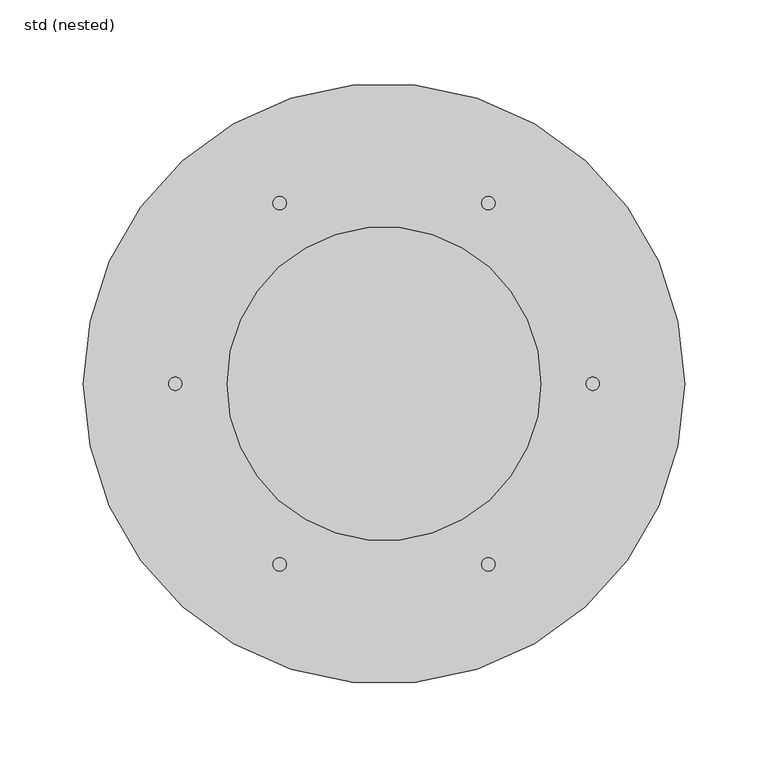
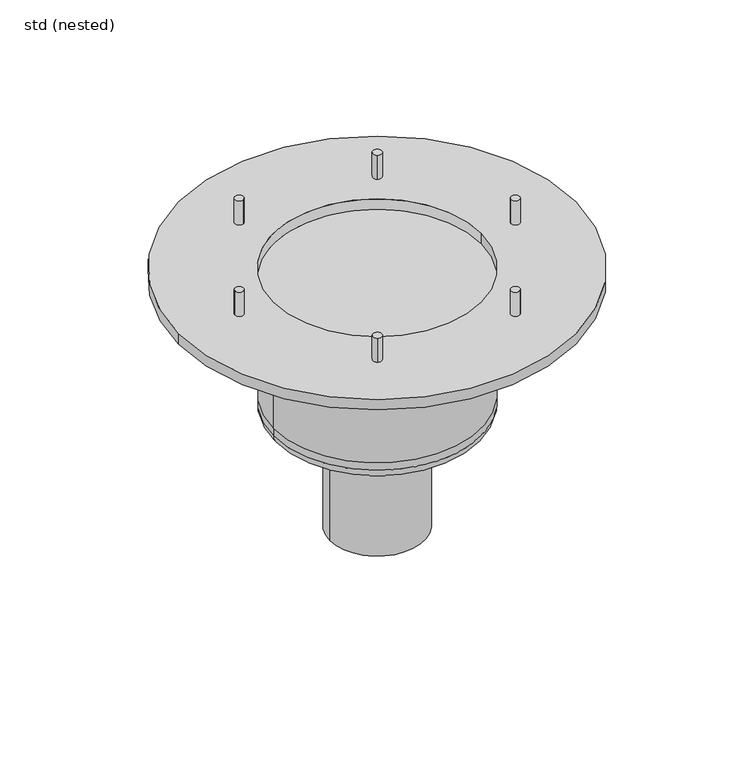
"""IFC4 building model written with IfcOpenShell, lengths in millimetres: sanitary terminal geometry, ZZZ_do not use_PF_CI_WPB_lower section for Passavant Jet_ACO : std (nested)."""

from ifc_helpers import new_model, si_unit, point, frame, frame_2d, origin, origin_with_axes, origin_2d, place, context, project, spatial, circle_curve, ellipse_curve, trimmed, segment, composite_curve, outline, extrude, source, transform, mapped, element, save
from ifc_brep_helpers import plane_surface, cylinder_surface, revolved_surface, advanced_brep


def std_nested_2c1d07d8(model_context):
    return source(origin(), model_context, "Body", "SolidModel", [
        extrude(outline(composite_curve([segment(trimmed(circle_curve(frame_2d((-62.5, 108.2531755)), 4.0), [point((-64.5, 111.7172771))], [point((-60.5, 104.7890739))], False, "CARTESIAN"), True, "CONTINUOUS"), segment(trimmed(circle_curve(frame_2d((-62.5, 108.2531755)), 4.0), [point((-60.5, 104.7890739))], [point((-64.5, 111.7172771))], False, "CARTESIAN"), True, "CONTINUOUS")], self_intersect=False)), origin_with_axes(), (0.0, 0.0, 1.0), 23.0),
        extrude(outline(composite_curve([segment(trimmed(circle_curve(frame_2d((-125.0, 0.0)), 4.0), [point((-129.0, 0.0))], [point((-121.0, 0.0))], False, "CARTESIAN"), True, "CONTINUOUS"), segment(trimmed(circle_curve(frame_2d((-125.0, 0.0)), 4.0), [point((-121.0, 0.0))], [point((-129.0, 0.0))], False, "CARTESIAN"), True, "CONTINUOUS")], self_intersect=False)), origin_with_axes(), (0.0, 0.0, 1.0), 23.0),
        extrude(outline(composite_curve([segment(trimmed(circle_curve(frame_2d((-62.5, -108.2531755)), 4.0), [point((-64.5, -111.7172771))], [point((-60.5, -104.7890739))], False, "CARTESIAN"), True, "CONTINUOUS"), segment(trimmed(circle_curve(frame_2d((-62.5, -108.2531755)), 4.0), [point((-60.5, -104.7890739))], [point((-64.5, -111.7172771))], False, "CARTESIAN"), True, "CONTINUOUS")], self_intersect=False)), origin_with_axes(), (0.0, 0.0, 1.0), 23.0),
        extrude(outline(composite_curve([segment(trimmed(circle_curve(frame_2d((62.5, -108.2531755)), 4.0), [point((64.5, -111.7172771))], [point((60.5, -104.7890739))], False, "CARTESIAN"), True, "CONTINUOUS"), segment(trimmed(circle_curve(frame_2d((62.5, -108.2531755)), 4.0), [point((60.5, -104.7890739))], [point((64.5, -111.7172771))], False, "CARTESIAN"), True, "CONTINUOUS")], self_intersect=False)), origin_with_axes(), (0.0, 0.0, 1.0), 23.0),
        extrude(outline(composite_curve([segment(trimmed(circle_curve(frame_2d((125.0, 0.0)), 4.0), [point((129.0, 0.0))], [point((121.0, 0.0))], False, "CARTESIAN"), True, "CONTINUOUS"), segment(trimmed(circle_curve(frame_2d((125.0, 0.0)), 4.0), [point((121.0, 0.0))], [point((129.0, 0.0))], False, "CARTESIAN"), True, "CONTINUOUS")], self_intersect=False)), origin_with_axes(), (0.0, 0.0, 1.0), 23.0),
        extrude(outline(composite_curve([segment(trimmed(circle_curve(frame_2d((62.5, 108.2531755)), 4.0), [point((64.5, 111.7172771))], [point((60.5, 104.7890739))], False, "CARTESIAN"), True, "CONTINUOUS"), segment(trimmed(circle_curve(frame_2d((62.5, 108.2531755)), 4.0), [point((60.5, 104.7890739))], [point((64.5, 111.7172771))], False, "CARTESIAN"), True, "CONTINUOUS")], self_intersect=False)), origin_with_axes(), (0.0, 0.0, 1.0), 23.0),
        advanced_brep(
        [(-84.0, 0.0, -138.0), (84.0, 0.0, -138.0), (0.0, 0.0, -138.0), (-94.0, 0.0, -128.0), (94.0, 0.0, -128.0), (-94.0, 0.0, -121.0), (94.0, 0.0, -121.0), (-94.0, 0.0, -10.0), (94.0, 0.0, -10.0)],
        [
            (0, 1, circle_curve(frame((0.0, 0.0, -138.0), z_axis=(0.0, 0.0, -1.0), x_axis=(1.0, 0.0, 0.0)), 84.0)),
            (1, 2),
            (2, 0),
            (1, 0, circle_curve(frame((0.0, 0.0, -138.0), z_axis=(0.0, 0.0, -1.0), x_axis=(1.0, 0.0, 0.0)), 84.0)),
            (0, 3, circle_curve(frame((-84.0, 0.0, -128.0), z_axis=(0.0, 1.0, 0.0), x_axis=(-1.0, 0.0, 0.0)), 10.0)),
            (3, 4, circle_curve(frame((0.0, 0.0, -128.0), z_axis=(0.0, 0.0, -1.0), x_axis=(1.0, 0.0, 0.0)), 94.0)),
            (4, 1, circle_curve(frame((84.0, 0.0, -128.0), z_axis=(0.0, 1.0, 0.0), x_axis=(1.0, 0.0, 0.0)), 10.0)),
            (4, 3, circle_curve(frame((0.0, 0.0, -128.0), z_axis=(0.0, 0.0, -1.0), x_axis=(1.0, 0.0, 0.0)), 94.0)),
            (3, 5),
            (5, 6, circle_curve(frame((0.0, 0.0, -121.0), z_axis=(0.0, 0.0, -1.0), x_axis=(1.0, 0.0, 0.0)), 94.0)),
            (6, 4),
            (6, 5, circle_curve(frame((0.0, 0.0, -121.0), z_axis=(0.0, 0.0, -1.0), x_axis=(1.0, 0.0, 0.0)), 94.0)),
            (7, 8, circle_curve(frame((0.0, 0.0, -10.0), z_axis=(0.0, 0.0, 1.0), x_axis=(1.0, 0.0, 0.0)), 94.0)),
            (8, 7, circle_curve(frame((0.0, 0.0, -10.0), z_axis=(0.0, 0.0, 1.0), x_axis=(1.0, 0.0, 0.0)), 94.0)),
            (7, 5),
            (6, 8),
        ],
        [
            plane_surface(frame((0.0, 0.0, -138.0), z_axis=(0.0, 0.0, -1.0), x_axis=(1.0, 0.0, 0.0))),
            revolved_surface(trimmed(ellipse_curve(frame((84.0, 0.0, -128.0), z_axis=(0.0, -1.0, 0.0), x_axis=(1.0, 0.0, 0.0)), 10.0, 10.0), [point((84.0, 0.0, -138.0))], [point((94.0, 0.0, -128.0))], True, "CARTESIAN"), (0.0, 0.0, 165.0), (0.0, 0.0, 1.0)),
            cylinder_surface(frame((0.0, 0.0, 165.0), z_axis=(0.0, 0.0, 1.0), x_axis=(1.0, 0.0, 0.0)), 94.0),
            plane_surface(frame((94.0, 0.0, -10.0), z_axis=(0.0, 0.0, 1.0), x_axis=(0.0, 1.0, 0.0))),
            cylinder_surface(frame((0.0, 0.0, -121.0), z_axis=(0.0, 0.0, 1.0), x_axis=(1.0, 0.0, 0.0)), 94.0),
        ],
        [
            (0, [[1, 2, 3]]),
            (0, [[-2, 4, -3]]),
            (1, [[-1, 5, 6, 7]]),
            (1, [[-4, -7, 8, -5]]),
            (2, [[-6, 9, 10, 11]]),
            (2, [[-8, -11, 12, -9]]),
            (3, [[13, 14]]),
            (4, [[-13, 15, -12, 16]]),
            (4, [[-14, -16, -10, -15]]),
        ],
    ),
        extrude(outline(composite_curve([segment(trimmed(circle_curve(origin_2d(), 42.75), [point((-42.75, 0.0))], [point((42.75, 0.0))], False, "CARTESIAN"), True, "CONTINUOUS"), segment(trimmed(circle_curve(origin_2d(), 42.75), [point((42.75, 0.0))], [point((-42.75, 0.0))], False, "CARTESIAN"), True, "CONTINUOUS")], self_intersect=False)), frame((0.0, 0.0, -246.0), z_axis=(0.0, 0.0, 1.0), x_axis=(1.0, 0.0, 0.0)), (0.0, 0.0, 1.0), 108.0),
        extrude(outline(composite_curve([segment(trimmed(circle_curve(origin_2d(), 180.0), [point((-180.0, 0.0))], [point((180.0, 0.0))], False, "CARTESIAN"), True, "CONTINUOUS"), segment(trimmed(circle_curve(origin_2d(), 180.0), [point((180.0, 0.0))], [point((-180.0, 0.0))], False, "CARTESIAN"), True, "CONTINUOUS")], self_intersect=False), holes=[composite_curve([segment(trimmed(circle_curve(origin_2d(), 94.0), [point((-94.0, 0.0))], [point((94.0, 0.0))], True, "CARTESIAN"), True, "CONTINUOUS"), segment(trimmed(circle_curve(origin_2d(), 94.0), [point((94.0, 0.0))], [point((-94.0, 0.0))], True, "CARTESIAN"), True, "CONTINUOUS")], self_intersect=False)]), frame((0.0, 0.0, -10.0), z_axis=(0.0, 0.0, 1.0), x_axis=(1.0, 0.0, 0.0)), (0.0, 0.0, 1.0), 10.0),
    ])


if __name__ == "__main__":
    model = new_model("IFC4")
    model_context = context("Model", 3, world=origin())
    ifc_project = project(units=[si_unit("LENGTHUNIT", "METRE", prefix="MILLI")], contexts=[model_context])
    site = spatial("IfcSite", under=ifc_project)
    building = spatial("IfcBuilding", under=site)
    placement = place(None, origin())
    std_nested_shape = std_nested_2c1d07d8(model_context)
    element("IfcSanitaryTerminal", 1, ObjectType="ZZZ_do not use_PF_CI_WPB_lower section for Passavant Jet_ACO : std (nested)", at=placement, inside=building, context=model_context, shape_type="MappedRepresentation", body=[
        mapped(std_nested_shape, transform((0.0, 0.0, 0.0), x_axis=(1.0, 0.0, 0.0), y_axis=(0.0, 1.0, 0.0), z_axis=(0.0, 0.0, 1.0))),
    ])
    save(model, "model.ifc")
